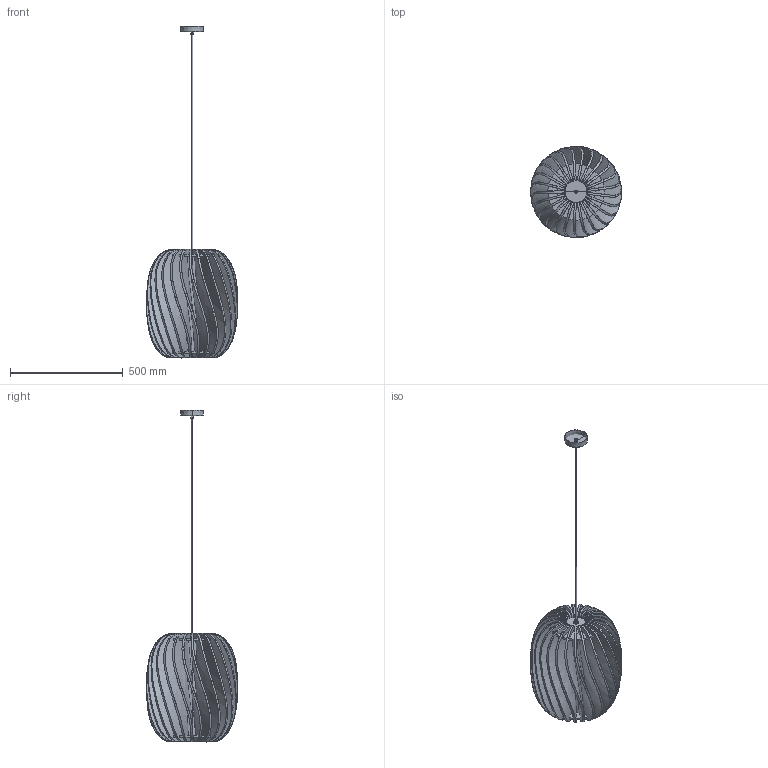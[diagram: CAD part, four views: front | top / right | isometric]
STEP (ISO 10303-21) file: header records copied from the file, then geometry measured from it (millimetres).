
FILE_DESCRIPTION(/* description */ (''),/* implementation_level */ '2;1');
FILE_NAME(/* name */ 'Twist XL mid STEP',/* time_stamp */ '2024-12-23T14:58:02+01:00',/* author */ (''),/* organization */ (''),/* preprocessor_version */ 'ST-DEVELOPER v16.5',/* originating_system */ 'Rhino 7.37',/* authorisation */ '');
FILE_SCHEMA (('CONFIG_CONTROL_DESIGN'));
Length unit declared in the file: millimetre
Products named in the file (1): Document
Bounding box: 403.4 x 403.87 x 1469.07 mm (x, y, z)
Volume: 1762716.9 mm3; surface area: 3363603.4 mm2
Topology: 6 solids, 9 shells, 780 faces, 4035 edges, 3894 vertices
Faces by surface type: plane 482, bspline 185, cylinder 113
Entity records: 91553 total; most frequent: CARTESIAN_POINT 79849, COMPOSITE_CURVE_SEGMENT 3660, B_SPLINE_CURVE_WITH_KNOTS 2931, ORIENTED_EDGE 722, CURVE_BOUNDED_SURFACE 631, OUTER_BOUNDARY_CURVE 631, DIRECTION 603, AXIS2_PLACEMENT_3D 599
